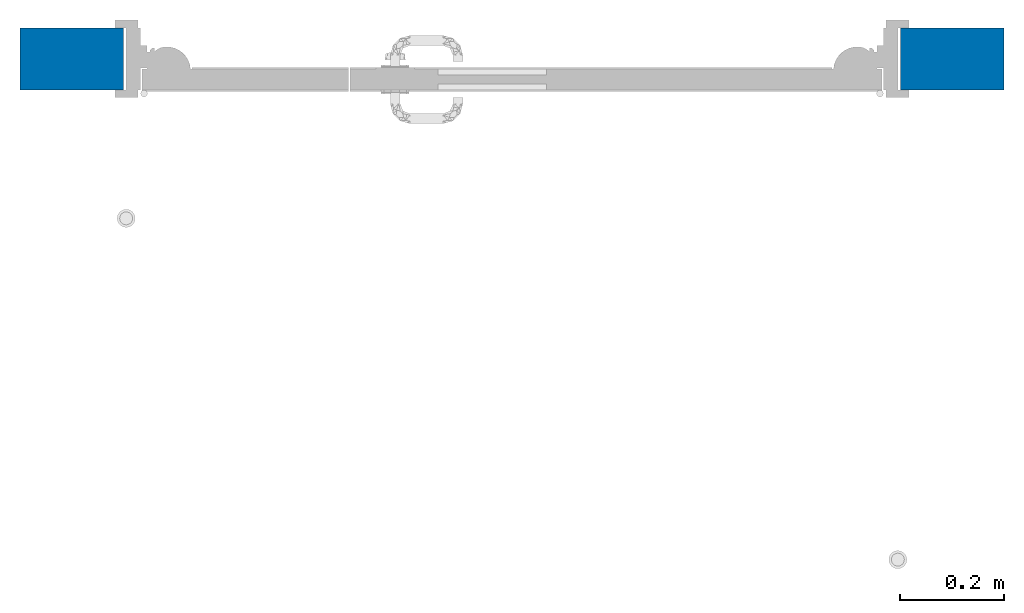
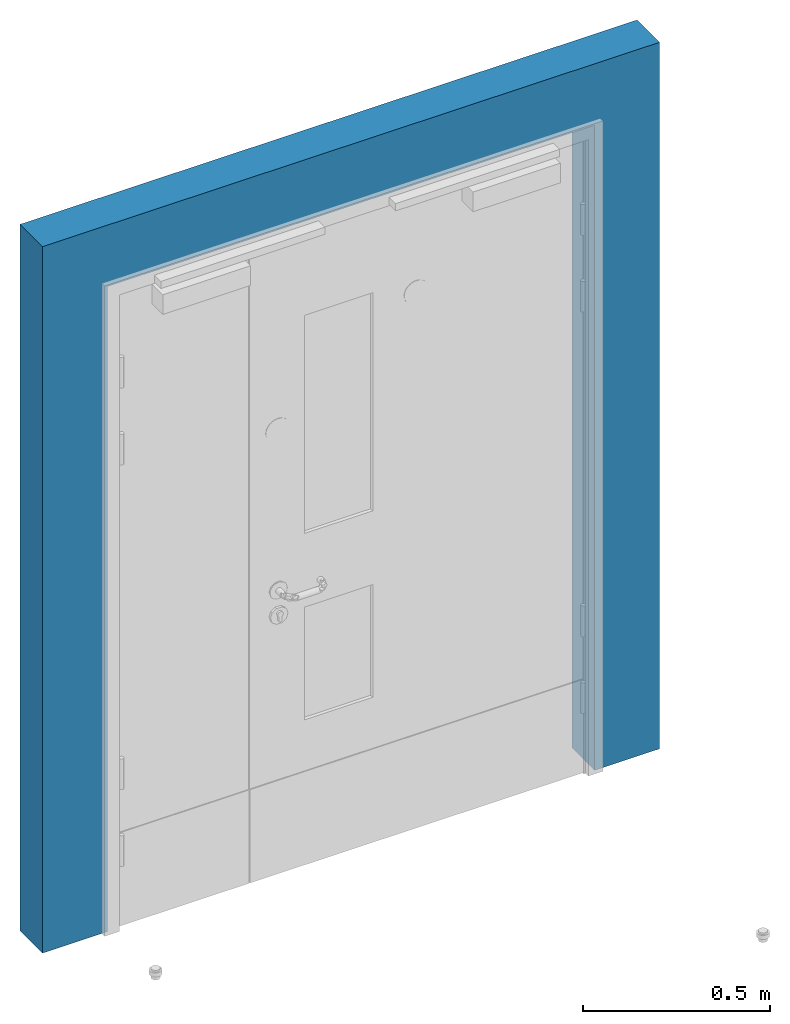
# One storey, incomplete: 1 wall, 1 opening.
"""IFC2X3 building model written with IfcOpenShell, lengths in millimetres."""

from ifc_helpers import new_model, entity, si_unit, converted_unit, derived_unit, direction, frame, frame_2d, origin, place, context, subcontext, project, spatial, rectangle, extrude, material, layer, layer_set, layer_usage, type_object, element, save


model = new_model("IFC2X3")

# Units and contexts
model_context = context("Model", 3, precision=0.01, world=origin(), true_north=direction((6.12303176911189e-17, 1.0)))
body_context = subcontext(model_context, "Body", "Model", "MODEL_VIEW")
ifc_project = project(units=[si_unit("LENGTHUNIT", "METRE", prefix="MILLI"), si_unit("AREAUNIT", "SQUARE_METRE"), si_unit("VOLUMEUNIT", "CUBIC_METRE"), converted_unit("PLANEANGLEUNIT", "DEGREE", entity("IfcRatioMeasure", 0.0174532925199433), si_unit("PLANEANGLEUNIT", "RADIAN"), dimensions=[0, 0, 0, 0, 0, 0, 0]), si_unit("MASSUNIT", "GRAM", prefix="KILO"), si_unit("TIMEUNIT", "SECOND"), si_unit("FREQUENCYUNIT", "HERTZ"), si_unit("THERMODYNAMICTEMPERATUREUNIT", "DEGREE_CELSIUS"), derived_unit("THERMALTRANSMITTANCEUNIT", [(si_unit("MASSUNIT", "GRAM", prefix="KILO"), 1), (si_unit("THERMODYNAMICTEMPERATUREUNIT", "KELVIN"), -1), (si_unit("TIMEUNIT", "SECOND"), -3)]), derived_unit("VOLUMETRICFLOWRATEUNIT", [(si_unit("LENGTHUNIT", "METRE"), 3), (si_unit("TIMEUNIT", "SECOND"), -1)]), si_unit("ELECTRICCURRENTUNIT", "AMPERE"), si_unit("ELECTRICVOLTAGEUNIT", "VOLT"), si_unit("POWERUNIT", "WATT"), si_unit("FORCEUNIT", "NEWTON", prefix="KILO"), si_unit("ILLUMINANCEUNIT", "LUX"), si_unit("LUMINOUSFLUXUNIT", "LUMEN"), si_unit("LUMINOUSINTENSITYUNIT", "CANDELA"), si_unit("PRESSUREUNIT", "PASCAL")], contexts=[model_context])

# Site, building, storey
site_placement = place(None, origin())
site = spatial("IfcSite", under=ifc_project, at=site_placement, Name="Default", CompositionType="ELEMENT")
building_placement = place(site_placement, origin())
building = spatial("IfcBuilding", under=site, at=building_placement, CompositionType="ELEMENT")
storey_placement = place(building_placement, origin())
storey = spatial("IfcBuildingStorey", under=building, at=storey_placement, Name="Level 0", CompositionType="ELEMENT", Elevation=0.0)

# Wall, opening
ifc_material = material(Name="Brick, Common")
ifc_layer = layer(ifc_material, 120.0)
ifc_layer_set = layer_set([ifc_layer], Name="Basic Wall:Int - 120 - Brick")
ifc_layer_usage = layer_usage(ifc_layer_set, "AXIS2", "NEGATIVE", 60.0)
wall_type = type_object("IfcWallType", Name="Basic Wall:Int - 120 - Brick", PredefinedType="STANDARD", material=ifc_layer_set)
wall_placement = place(storey_placement, frame((-951.500000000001, 0.0, 0.0)))
wall = element("IfcWallStandardCase", 1, at=wall_placement, inside=storey, type_object=wall_type, material=ifc_layer_usage, Name="Basic Wall:Int - 120 - Brick", ObjectType="Basic Wall:Int - 120 - Brick", context=body_context, shape_type="SweptSolid", body=[
    extrude(rectangle(XDim=1900.0, YDim=120.0, at=frame_2d((950.0, -7.105427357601e-15), x_axis=(-1.0, 0.0))), origin(), (0.0, 0.0, 1.0), 2300.0),
])
opening_placement = place(wall_placement, frame((1700.0, 60.0, 0.0)))
element("IfcOpeningElement", 2, at=opening_placement, cuts=wall, Name="NBS_AssaAbloyLtd_DrsetSym_MedicaSelectUnequalPair:1500x2100mm:1", ObjectType="Opening", context=body_context, shape_type="SweptSolid", body=[
    extrude(rectangle(XDim=2099.99999999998, YDim=1500.0, at=frame_2d((1049.99999999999, 749.999999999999), x_axis=(1.0, 0.0))), frame((0.0, 0.0, 0.0), z_axis=(0.0, -1.0, 0.0), x_axis=(0.0, 0.0, 1.0)), (0.0, 0.0, 1.0), 120.0),
])

save(model, "model.ifc")
